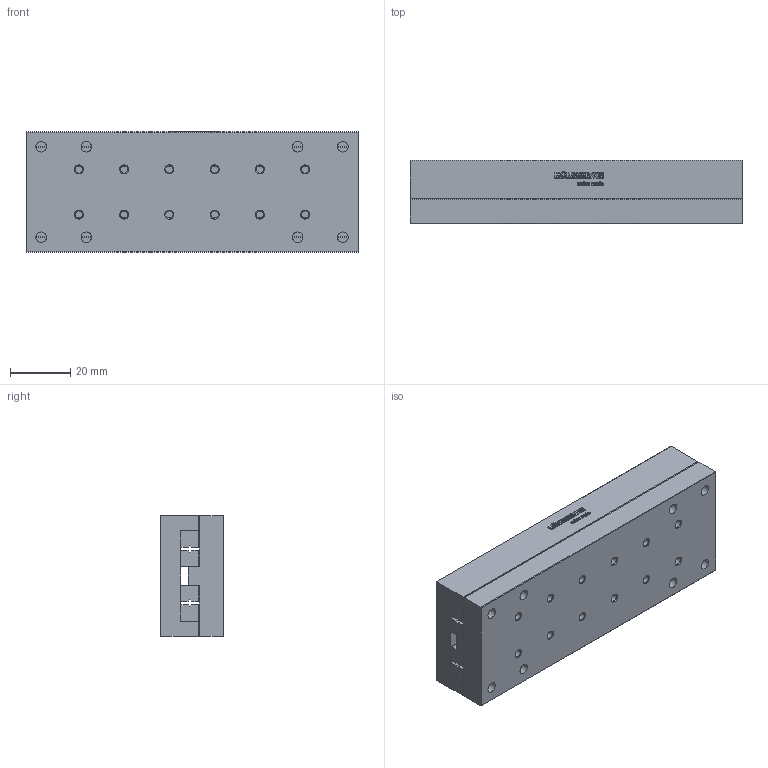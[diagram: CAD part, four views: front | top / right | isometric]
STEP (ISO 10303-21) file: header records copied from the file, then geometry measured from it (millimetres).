
FILE_DESCRIPTION(/* description */ ('STEP AP214'),/* implementation_level */ '2;1');
FILE_NAME(/* name */ 'NKL 2-110(0)',/* time_stamp */ '2025-04-23T07:58:06+02:00',/* author */ ('License CC BY-ND 4.0'),/* organization */ ('CADENAS'),/* preprocessor_version */ 'ST-DEVELOPER v19.3',/* originating_system */ 'PARTsolutions',/* authorisation */ ' ');
FILE_SCHEMA (('AUTOMOTIVE_DESIGN {1 0 10303 214 3 1 1}'));
Length unit declared in the file: millimetre
Products named in the file (3): NKL 2-110(0); NKL 2-110_1; NKL 2-110_2
Assembly tree (2 placements, depth 2):
  NKL 2-110(0)
    NKL 2-110_1
    NKL 2-110_2
Bounding box: 110 x 21 x 40 mm (x, y, z)
Volume: 86539.5 mm3; surface area: 33579.3 mm2
Topology: 2 solids, 2 shells, 693 faces, 1914 edges, 1248 vertices
Faces by surface type: cylinder 332, plane 313, cone 48
Full cylindrical faces by diameter (mm): 2.459 x24, 3.5 x8, 6 x8
Entity records: 21923 total; most frequent: DIRECTION 3930, CARTESIAN_POINT 3818, ORIENTED_EDGE 3628, EDGE_CURVE 1814, AXIS2_PLACEMENT_3D 1444, VERTEX_POINT 1236, LINE 1042, VECTOR 1042
